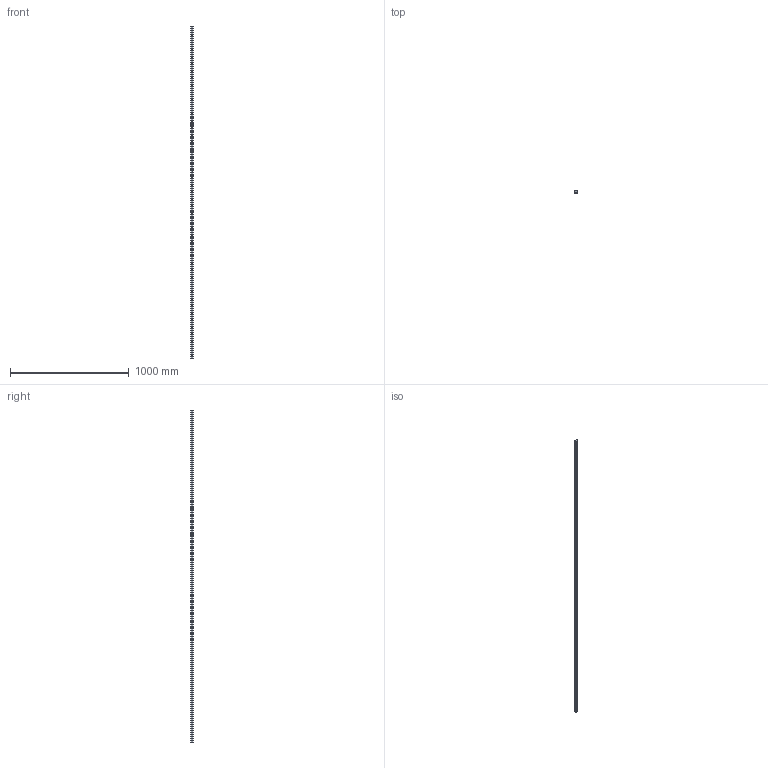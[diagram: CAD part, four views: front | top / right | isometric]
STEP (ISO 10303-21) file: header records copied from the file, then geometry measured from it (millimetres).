
FILE_DESCRIPTION (( 'STEP AP203' ), '1' );
FILE_NAME ('L1016.BRF25-2800.step', '2019-06-13T08:43:57', ( '' ), ( '' ), 'SwSTEP 2.0', 'SolidWorks 2017', '' );
FILE_SCHEMA (( 'CONFIG_CONTROL_DESIGN' ));
Length unit declared in the file: millimetre
Products named in the file (1): L1016.BRF25-2800
Bounding box: 23 x 19.2 x 2800 mm (x, y, z)
Volume: 1069044.5 mm3; surface area: 257713.1 mm2
Topology: 1 solids, 1 shells, 355 faces, 824 edges, 471 vertices
Faces by surface type: cylinder 192, cone 94, plane 69
Entity records: 9549 total; most frequent: DIRECTION 1826, CARTESIAN_POINT 1557, ORIENTED_EDGE 1460, AXIS2_PLACEMENT_3D 740, EDGE_CURVE 730, VERTEX_POINT 471, EDGE_LOOP 449, CIRCLE 384
